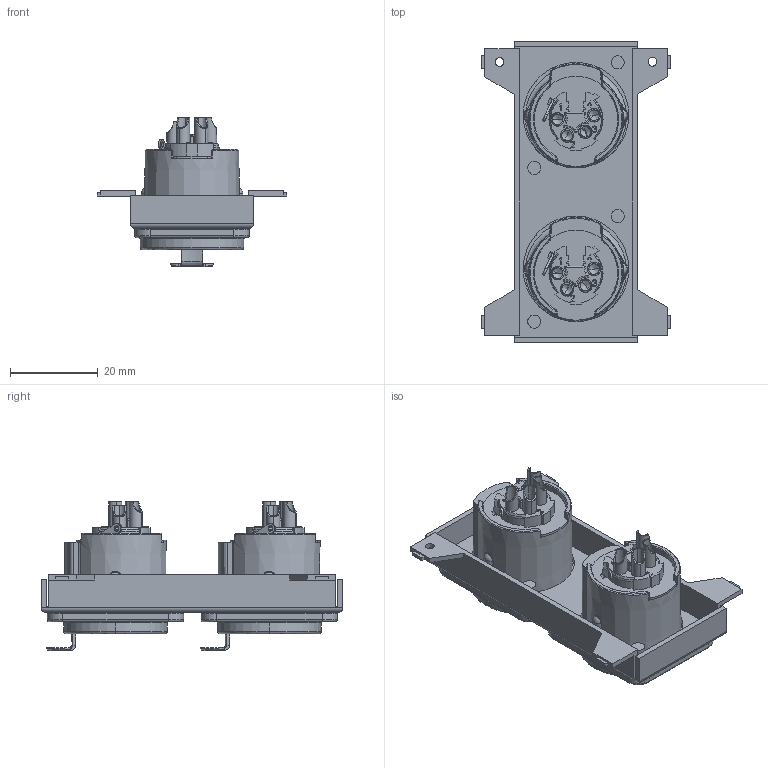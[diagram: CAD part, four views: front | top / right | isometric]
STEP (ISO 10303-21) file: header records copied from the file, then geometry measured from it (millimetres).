
FILE_DESCRIPTION(('FreeCAD Model'),'2;1');
FILE_NAME('Open CASCADE Shape Model','2026-08-27T10:47:42',(''),(''), 'Open CASCADE STEP processor 7.8','FreeCAD','Unknown');
FILE_SCHEMA(('AUTOMOTIVE_DESIGN { 1 0 10303 214 1 1 1 1 }'));
Length unit declared in the file: millimetre
Products named in the file (8): BTK_2NC4FD_X; NC4FD-LX-X_2; M3x8-Screw_1; M3x8-Screw_2; M3x8-Screw_3; M3x8-Screw_4; NC4FD-LX-X_1; P-201791
Assembly tree (7 placements, depth 2):
  BTK_2NC4FD_X
    NC4FD-LX-X_2
    M3x8-Screw_1
    M3x8-Screw_2
    M3x8-Screw_3
    M3x8-Screw_4
    NC4FD-LX-X_1
    P-201791
Bounding box: 43.2 x 68.7 x 33.96 mm (x, y, z)
Volume: 20930.1 mm3; surface area: 16879 mm2
Topology: 7 solids, 15 shells, 3099 faces, 8091 edges, 5136 vertices
Faces by surface type: plane 2071, cylinder 436, bspline 254, cone 204, torus 100, sphere 34
Full cylindrical faces by diameter (mm): 2 x6, 3 x4, 5.3 x4, 24 x2
Entity records: 114012 total; most frequent: CARTESIAN_POINT 32982, ORIENTED_EDGE 16114, DIRECTION 14349, EDGE_CURVE 8057, LINE 5703, VECTOR 5703, VERTEX_POINT 5136, AXIS2_PLACEMENT_3D 4323
